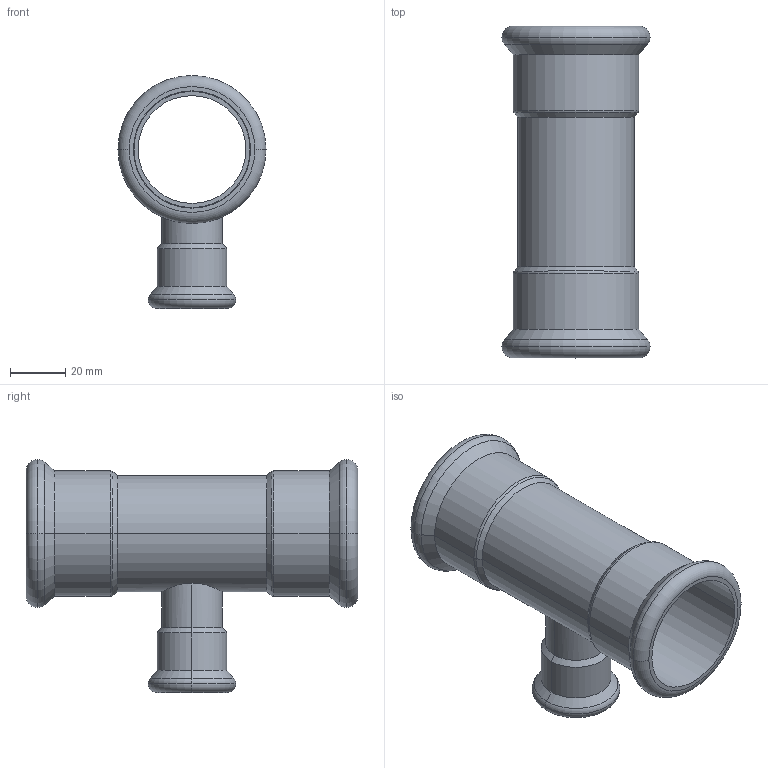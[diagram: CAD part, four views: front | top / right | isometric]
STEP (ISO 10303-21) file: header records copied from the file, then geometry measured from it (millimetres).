
FILE_DESCRIPTION(('CoCreate Modeling STEP Export'),'2;1');
FILE_NAME('C1415 42x22x42.stp','2014-11-12T10:32:42',(''),(''),'CoCreate Modeling STEP processor for AP214 (Solid Model)','CoCreate Modeling 17.00A 17-Jun-2010 (C) Parametric Technology GmbH','');
FILE_SCHEMA(('AUTOMOTIVE_DESIGN { 1 0 10303 214 1 1 1 1 }'));
Length unit declared in the file: millimetre
Products named in the file (2): C1415_42x22x42
Assembly tree (1 placements, depth 2):
  C1415_42x22x42
    C1415_42x22x42
Bounding box: 53.55 x 120 x 84.28 mm (x, y, z)
Volume: 39164.3 mm3; surface area: 40548 mm2
Topology: 1 solids, 1 shells, 64 faces, 131 edges, 77 vertices
Faces by surface type: cylinder 27, torus 16, cone 12, plane 9
Entity records: 2502 total; most frequent: CARTESIAN_POINT 1307, ORIENTED_EDGE 262, DIRECTION 212, EDGE_CURVE 131, AXIS2_PLACEMENT_3D 87, VERTEX_POINT 77, EDGE_LOOP 74, FACE_OUTER_BOUND 64
